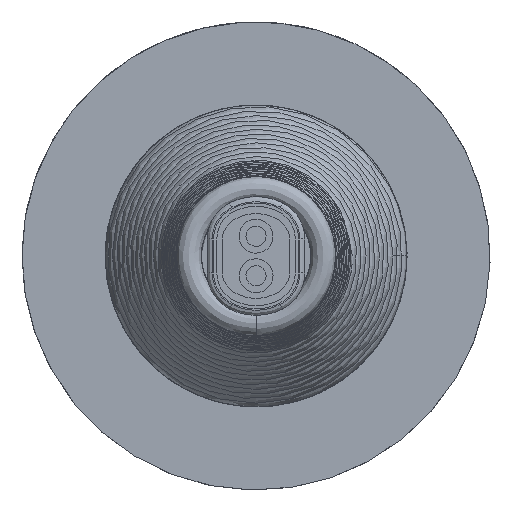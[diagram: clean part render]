
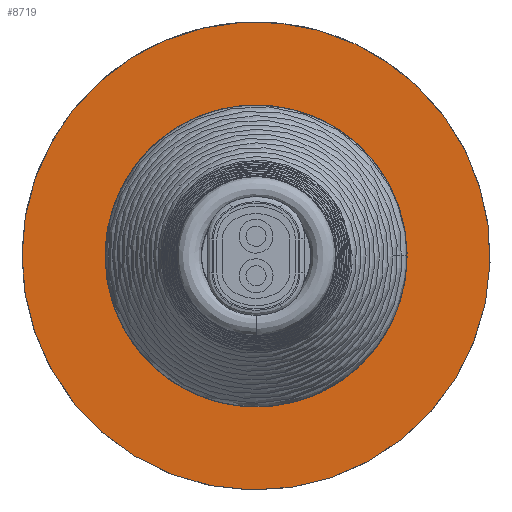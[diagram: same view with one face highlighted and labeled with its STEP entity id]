
A CAD part, left-side view. The second image highlights one B-rep face of the part: STEP entity #8719.
In plain terms, the highlighted planar face has unit normal (-1, 0, 0) as drawn and (0, 1, 0) by its records, which use the part's own axes.
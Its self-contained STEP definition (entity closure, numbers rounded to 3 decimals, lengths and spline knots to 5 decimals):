
#65=FACE_BOUND('',#2383,.T.);
#1435=PLANE('',#9577);
#1894=FACE_OUTER_BOUND('',#2382,.T.);
#2382=EDGE_LOOP('',(#7704,#7705));
#2383=EDGE_LOOP('',(#7706,#7707));
#3171=CIRCLE('',#9575,0.095);
#3172=CIRCLE('',#9576,0.095);
#3173=CIRCLE('',#9578,0.345);
#3174=CIRCLE('',#9579,0.345);
#3998=VERTEX_POINT('',#53303);
#3999=VERTEX_POINT('',#53305);
#4000=VERTEX_POINT('',#53309);
#4001=VERTEX_POINT('',#53310);
#5240=EDGE_CURVE('',#3999,#3998,#3171,.T.);
#5241=EDGE_CURVE('',#3998,#3999,#3172,.T.);
#5242=EDGE_CURVE('',#4000,#4001,#3173,.T.);
#5243=EDGE_CURVE('',#4001,#4000,#3174,.T.);
#7704=ORIENTED_EDGE('',*,*,#5242,.T.);
#7705=ORIENTED_EDGE('',*,*,#5243,.T.);
#7706=ORIENTED_EDGE('',*,*,#5240,.T.);
#7707=ORIENTED_EDGE('',*,*,#5241,.T.);
#8719=ADVANCED_FACE('',(#1894,#65),#1435,.T.);
#9575=AXIS2_PLACEMENT_3D('',#53306,#11456,#11457);
#9576=AXIS2_PLACEMENT_3D('',#53307,#11458,#11459);
#9577=AXIS2_PLACEMENT_3D('',#53308,#11460,#11461);
#9578=AXIS2_PLACEMENT_3D('',#53311,#11462,#11463);
#9579=AXIS2_PLACEMENT_3D('',#53312,#11464,#11465);
#11456=DIRECTION('center_axis',(0.,-1.,0.));
#11457=DIRECTION('ref_axis',(1.,0.,0.));
#11458=DIRECTION('center_axis',(0.,-1.,0.));
#11459=DIRECTION('ref_axis',(1.,0.,0.));
#11460=DIRECTION('center_axis',(0.,1.,0.));
#11461=DIRECTION('ref_axis',(0.,0.,
1.));
#11462=DIRECTION('center_axis',(0.,1.,0.));
#11463=DIRECTION('ref_axis',(-1.,0.,0.));
#11464=DIRECTION('center_axis',(0.,1.,0.));
#11465=DIRECTION('ref_axis',(-1.,0.,0.));
#53303=CARTESIAN_POINT('',(0.47128,1.07868,0.21819));
#53305=CARTESIAN_POINT('',(0.66128,1.07868,0.21819));
#53306=CARTESIAN_POINT('Origin',(0.56628,1.07868,0.21819));
#53307=CARTESIAN_POINT('Origin',(0.56628,1.07868,0.21819));
#53308=CARTESIAN_POINT('Origin',(0.56628,1.07868,0.21819));
#53309=CARTESIAN_POINT('',(0.2444,1.07868,0.34236));
#53310=CARTESIAN_POINT('',(0.91128,1.07868,0.21819));
#53311=CARTESIAN_POINT('Origin',(0.56628,1.07868,0.21819));
#53312=CARTESIAN_POINT('Origin',(0.56628,1.07868,0.21819));
